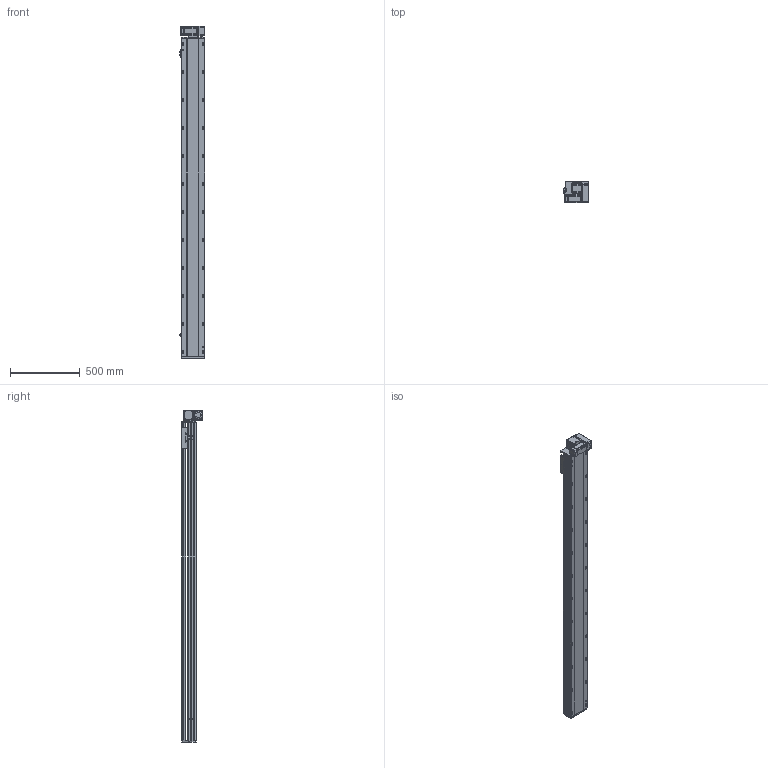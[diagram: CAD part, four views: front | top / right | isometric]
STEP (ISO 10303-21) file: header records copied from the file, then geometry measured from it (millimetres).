
FILE_DESCRIPTION (( 'STEP AP214' ), '1' );
FILE_NAME ('RTB17S-XX-2000-RM-M40-C4.STEP', '2025-12-11T08:24:47', ( '' ), ( '' ), 'SwSTEP 2.0', 'SolidWorks 2018', '' );
FILE_SCHEMA (( 'AUTOMOTIVE_DESIGN' ));
Length unit declared in the file: millimetre
Products named in the file (14): RTB14-L-005P--轴承塑胶压盖^RTB17S-RM-皮带座装配-400W_RTB17S-XX-XX-RM-M40-C4; RTB17S-L-007奻裔^RTB17S-XX-XX-RM-M40-C4; RTB17S-L-004佪裝蹟譫蟀諉釱^RTB17S-XX-XX-RM-M40-C4; RTB17S-XX-2000-RM-M40-C4; RTH13-BL-012覜茼え俋离^RTB17S-XX-XX-RM-M40-C4; RTB14-L-017P^RTB17S-RM-々湍釱蚾饜-400W_RTB17S-XX-XX-RM-M40-C4; OMRON EE-SX672 传感器^RTB17S-XX-XX-RM-M40-C4; RTB17S-RM-々湍釱蚾饜-400W^RTB17S-XX-XX-RM-M40-C4; RTB17-R-011菁釱^RTB17S-XX-XX-RM-M40-C4; RTB14-L-018P^RTB17S-RM-々湍釱蚾饜-400W_RTB17S-XX-XX-RM-M40-C4; RTB17S-L-001耜醱啣^RTB17S-XX-XX-RM-M40-C4; 400W侜督萇儂^RTB17S-XX-XX-RM-M40-C4; RTB17S-L-014-T20--々湍釱^RTB17S-RM-々湍釱蚾饜-400W_RTB17S-XX-XX-RM-M40-C4; RTB14-L-008-M20--萇儂啣^RTB17S-RM-々湍釱蚾饜-400W_RTB17S-XX-XX-RM-M40-C4
Assembly tree (16 placements, depth 3):
  RTB17S-XX-2000-RM-M40-C4
    RTB17-R-011菁釱^RTB17S-XX-XX-RM-M40-C4
    RTB17S-L-007奻裔^RTB17S-XX-XX-RM-M40-C4
    OMRON EE-SX672 传感器^RTB17S-XX-XX-RM-M40-C4  x3
    RTB17S-L-001耜醱啣^RTB17S-XX-XX-RM-M40-C4
    400W侜督萇儂^RTB17S-XX-XX-RM-M40-C4
    RTB17S-L-004佪裝蹟譫蟀諉釱^RTB17S-XX-XX-RM-M40-C4
    RTH13-BL-012覜茼え俋离^RTB17S-XX-XX-RM-M40-C4
    RTB17S-RM-々湍釱蚾饜-400W^RTB17S-XX-XX-RM-M40-C4
      RTB17S-L-014-T20--々湍釱^RTB17S-RM-々湍釱蚾饜-400W_RTB17S-XX-XX-RM-M40-C4
      RTB14-L-005P--轴承塑胶压盖^RTB17S-RM-皮带座装配-400W_RTB17S-XX-XX-RM-M40-C4
      RTB14-L-008-M20--萇儂啣^RTB17S-RM-々湍釱蚾饜-400W_RTB17S-XX-XX-RM-M40-C4
      RTB14-L-017P^RTB17S-RM-々湍釱蚾饜-400W_RTB17S-XX-XX-RM-M40-C4  x2
      RTB14-L-018P^RTB17S-RM-々湍釱蚾饜-400W_RTB17S-XX-XX-RM-M40-C4
Bounding box: 183.5 x 156.5 x 2372.5 mm (x, y, z)
Volume: 20531891.8 mm3; surface area: 2386456.9 mm2
Topology: 15 solids, 15 shells, 2285 faces, 6357 edges, 4149 vertices
Faces by surface type: plane 1078, cylinder 759, bspline 301, cone 139, torus 8
Entity records: 66473 total; most frequent: CARTESIAN_POINT 18762, ORIENTED_EDGE 9558, DIRECTION 8846, EDGE_CURVE 4779, VERTEX_POINT 3137, AXIS2_PLACEMENT_3D 3067, LINE 2712, VECTOR 2712
